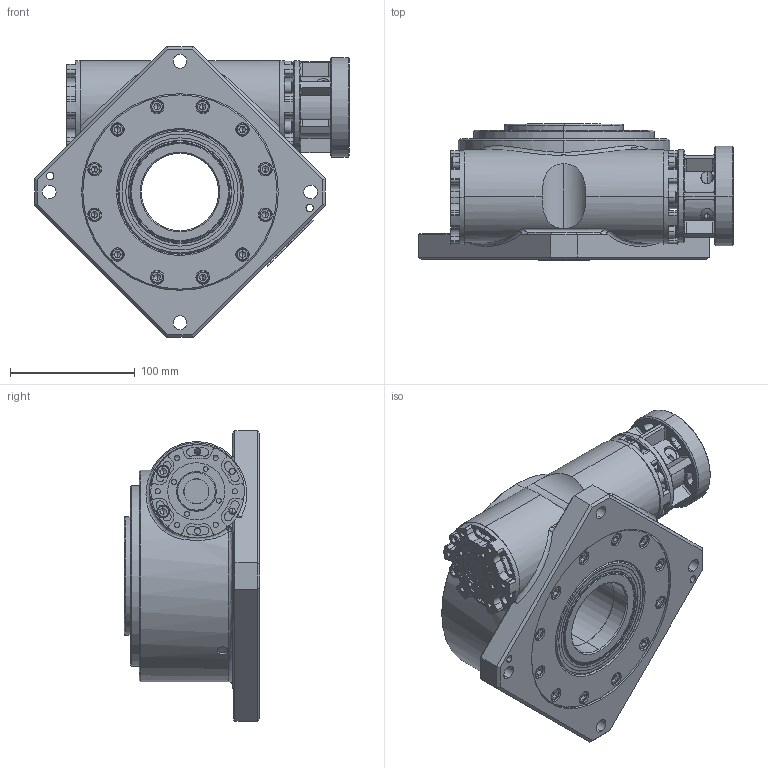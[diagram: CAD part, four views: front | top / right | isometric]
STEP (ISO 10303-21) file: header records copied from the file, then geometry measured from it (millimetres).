
FILE_DESCRIPTION (( 'STEP AP203' ), '1' );
FILE_NAME ('HTN68-20-14-50-70-M5.STEP', '2024-08-03T03:38:24', ( 'Windows User' ), ( 'P R C' ), 'SwSTEP 2.0', 'SolidWorks 2016', '' );
FILE_SCHEMA (( 'CONFIG_CONTROL_DESIGN' ));
Products named in the file (1): HTN68-20-14-50-70-M5
Bounding box: 252.67 x 109 x 233.35 mm (x, y, z)
Surface area: 239628.7 mm2 (no closed solid volume)
Topology: 0 solids, 112 shells, 1704 faces, 4718 edges, 3099 vertices
Faces by surface type: plane 846, cylinder 493, bspline 245, cone 114, torus 6
Entity records: 70797 total; most frequent: CARTESIAN_POINT 28780, ORIENTED_EDGE 8748, DIRECTION 8119, EDGE_CURVE 4648, VERTEX_POINT 3099, AXIS2_PLACEMENT_3D 2740, VECTOR 2639, LINE 2639
